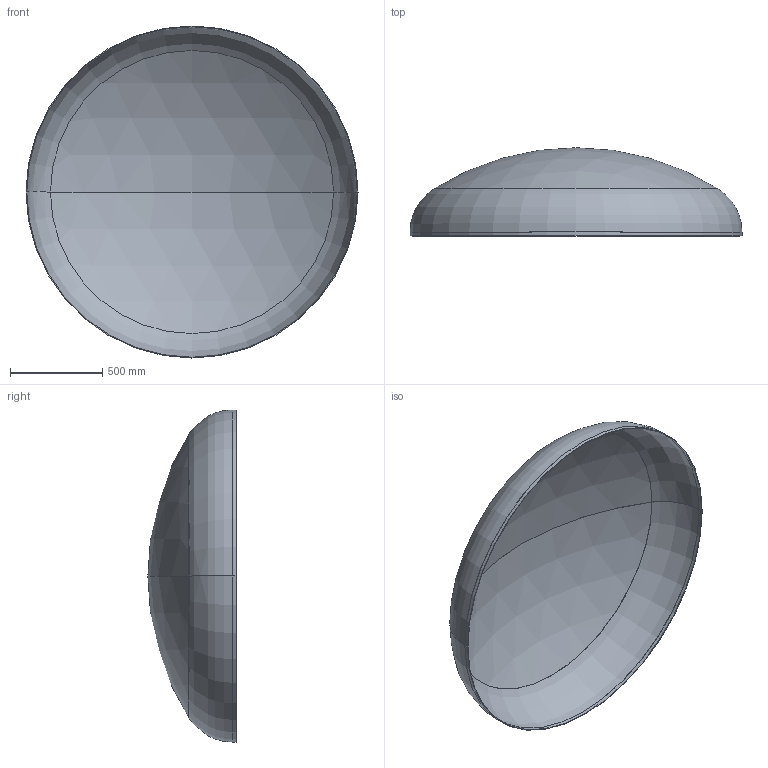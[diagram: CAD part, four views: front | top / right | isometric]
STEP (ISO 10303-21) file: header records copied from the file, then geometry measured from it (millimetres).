
FILE_DESCRIPTION (( 'STEP AP203' ), '1' );
FILE_NAME ('DIN 28013 Korbbogenform_-_Boden DIN 28013 - 1800 x 20 - I - s=4.step', '2016-07-01T12:13:46', ( '' ), ( '' ), 'SwSTEP 2.0', 'SolidWorks 2013', '' );
FILE_SCHEMA (( 'CONFIG_CONTROL_DESIGN' ));
Length unit declared in the file: millimetre
Products named in the file (1): DIN 28013 Korbbogenform_-_Boden DIN 28013 - 1800 x 20 - I - s=4
Bounding box: 1800 x 478.31 x 1800 mm (x, y, z)
Volume: 14487030.8 mm3; surface area: 7266115.1 mm2
Topology: 1 solids, 1 shells, 13 faces, 24 edges, 14 vertices
Faces by surface type: torus 4, cylinder 4, sphere 4, plane 1
Entity records: 407 total; most frequent: DIRECTION 72, CARTESIAN_POINT 52, ORIENTED_EDGE 48, AXIS2_PLACEMENT_3D 34, EDGE_CURVE 24, CIRCLE 20, VERTEX_POINT 14, EDGE_LOOP 14
